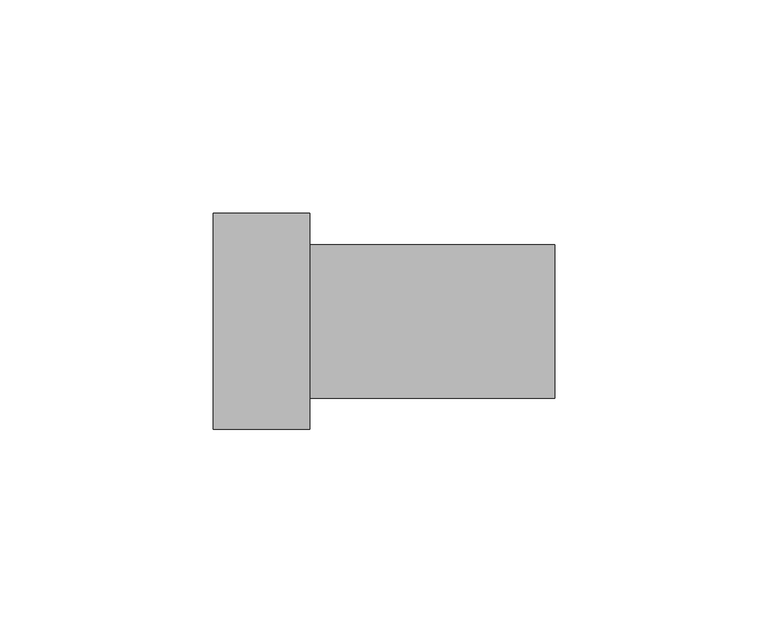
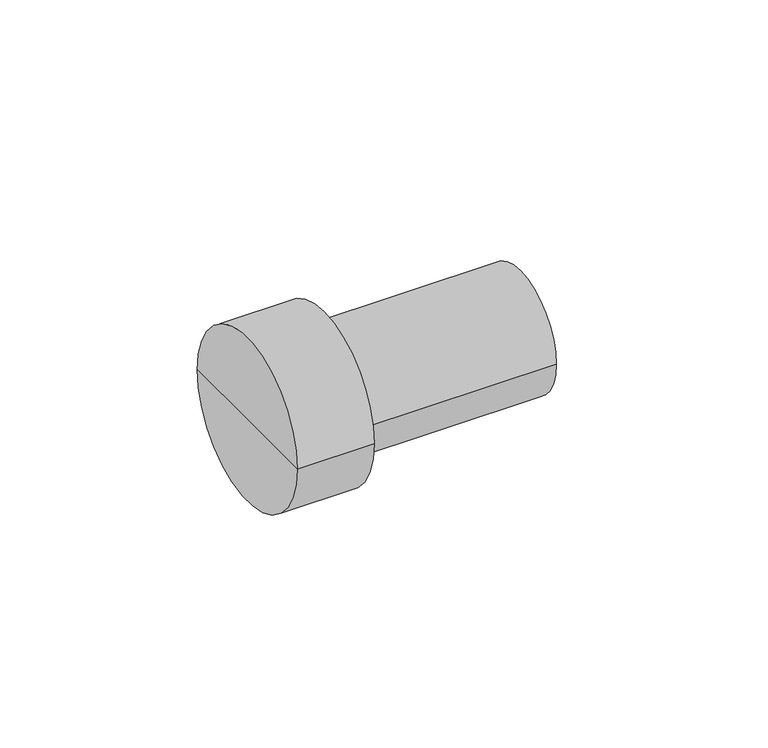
"""IFC4 building model written with IfcOpenShell, lengths in millimetres: cable carrier fitting geometry, Муфта прямая труба-коробка BS : CTA10D-BS32-K41-025."""

from ifc_helpers import new_model, si_unit, frame, origin, place, context, project, spatial, circle_curve, source, transform, mapped, element, save
from ifc_brep_helpers import plane_surface, cylinder_surface, advanced_brep


def cable_carrier_fitting_f652ca61(model_context):
    return source(origin(), model_context, "Body", "AdvancedBrep", [
        advanced_brep(
        [(-17.4590195, -18.0, 0.0), (-17.4590195, 18.0, 0.0), (40.0, 18.0, 0.0), (40.0, -18.0, 0.0), (-40.0, 0.0, 0.0), (-40.0, 25.3253393, 0.0), (-40.0, -25.3253393, 0.0), (40.0, 0.0, 0.0), (-17.4590195, -25.3253393, 0.0), (-17.4590195, 25.3253393, 0.0)],
        [
            (0, 1, circle_curve(frame((-17.4590195, 0.0, 0.0), z_axis=(1.0, 0.0, 0.0), x_axis=(0.0, 1.0, 0.0)), 18.0)),
            (1, 2),
            (2, 3, circle_curve(frame((40.0, 0.0, 0.0), z_axis=(-1.0, 0.0, 0.0), x_axis=(0.0, 1.0, 0.0)), 18.0)),
            (3, 0),
            (1, 0, circle_curve(frame((-17.4590195, 0.0, 0.0), z_axis=(1.0, 0.0, 0.0), x_axis=(0.0, 1.0, 0.0)), 18.0)),
            (3, 2, circle_curve(frame((40.0, 0.0, 0.0), z_axis=(-1.0, 0.0, 0.0), x_axis=(0.0, 1.0, 0.0)), 18.0)),
            (4, 5),
            (5, 6, circle_curve(frame((-40.0, 0.0, 0.0), z_axis=(-1.0, 0.0, 0.0), x_axis=(0.0, 1.0, 0.0)), 25.3253393)),
            (6, 4),
            (6, 5, circle_curve(frame((-40.0, 0.0, 0.0), z_axis=(-1.0, 0.0, 0.0), x_axis=(0.0, 1.0, 0.0)), 25.3253393)),
            (2, 7),
            (7, 3),
            (8, 9, circle_curve(frame((-17.4590195, 0.0, 0.0), z_axis=(1.0, 0.0, 0.0), x_axis=(0.0, 1.0, 0.0)), 25.3253393)),
            (9, 1),
            (0, 8),
            (9, 8, circle_curve(frame((-17.4590195, 0.0, 0.0), z_axis=(1.0, 0.0, 0.0), x_axis=(0.0, 1.0, 0.0)), 25.3253393)),
            (5, 9),
            (8, 6),
        ],
        [
            cylinder_surface(frame((1965.0, 0.0, 0.0), z_axis=(-1.0, 0.0, 0.0), x_axis=(0.0, 1.0, 0.0)), 18.0),
            plane_surface(frame((-40.0, 0.0, 0.0), z_axis=(-1.0, 0.0, 0.0), x_axis=(0.0, 1.0, 0.0))),
            plane_surface(frame((40.0, 0.0, 0.0), z_axis=(1.0, 0.0, 0.0), x_axis=(0.0, 1.0, 0.0))),
            plane_surface(frame((-17.4590195, 0.0, 0.0), z_axis=(1.0, 0.0, 0.0), x_axis=(0.0, 1.0, 0.0))),
            cylinder_surface(frame((1965.0, 0.0, 0.0), z_axis=(-1.0, 0.0, 0.0), x_axis=(0.0, 1.0, 0.0)), 25.3253393),
        ],
        [
            (0, [[1, 2, 3, 4]]),
            (0, [[5, -4, 6, -2]]),
            (1, [[7, 8, 9]]),
            (1, [[-9, 10, -7]]),
            (2, [[-3, 11, 12]]),
            (2, [[-6, -12, -11]]),
            (3, [[13, 14, -1, 15]]),
            (3, [[16, -15, -5, -14]]),
            (4, [[-8, 17, -13, 18]]),
            (4, [[-10, -18, -16, -17]]),
        ],
    ),
    ])


if __name__ == "__main__":
    model = new_model("IFC4")
    model_context = context("Model", 3, world=origin())
    ifc_project = project(units=[si_unit("LENGTHUNIT", "METRE", prefix="MILLI")], contexts=[model_context])
    site = spatial("IfcSite", under=ifc_project)
    building = spatial("IfcBuilding", under=site)
    placement = place(None, origin())
    cable_carrier_fitting_shape = cable_carrier_fitting_f652ca61(model_context)
    element("IfcCableCarrierFitting", 1, ObjectType="Муфта прямая труба-коробка BS : CTA10D-BS32-K41-025", at=placement, inside=building, context=model_context, shape_type="MappedRepresentation", body=[
        mapped(cable_carrier_fitting_shape, transform((0.0, 0.0, 0.0), x_axis=(1.0, 0.0, 0.0), y_axis=(0.0, 1.0, 0.0), z_axis=(0.0, 0.0, 1.0))),
    ])
    save(model, "model.ifc")
